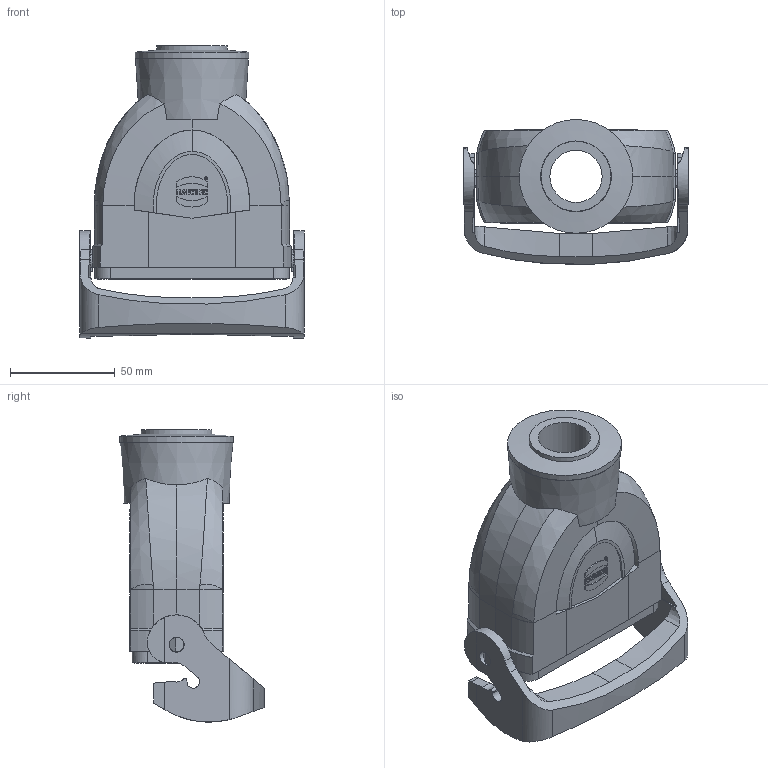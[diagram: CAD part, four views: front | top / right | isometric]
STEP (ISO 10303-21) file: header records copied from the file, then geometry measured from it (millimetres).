
FILE_DESCRIPTION(/* description */ (''),/* implementation_level */ '2;1');
FILE_NAME(/* name */ '100777076ugm000_d.stp',/* time_stamp */ '2022-07-06T14:22:24+02:00',/* author */ (''),/* organization */ (''),/* preprocessor_version */ 'ST-DEVELOPER v16.7',/* originating_system */ 'SIEMENS PLM Software NX 1911',/* authorisation */ '');
FILE_SCHEMA (('AUTOMOTIVE_DESIGN { 1 0 10303 214 3 1 1 1 }'));
Length unit declared in the file: millimetre
Products named in the file (1): 100777076ugm000_d
Bounding box: 107.5 x 69.15 x 139.83 mm (x, y, z)
Volume: 163064.2 mm3; surface area: 68535.2 mm2
Topology: 2 solids, 2 shells, 494 faces, 1333 edges, 868 vertices
Faces by surface type: plane 301, cylinder 114, bspline 49, cone 15, extrusion 11, torus 4
Full cylindrical faces by diameter (mm): 1.006 x1, 1.477 x1, 3.4 x4, 3.5 x4, 7.2 x2, 25 x1, 54.4 x1
Entity records: 21636 total; most frequent: CARTESIAN_POINT 6215, ORIENTED_EDGE 2608, DIRECTION 2244, EDGE_CURVE 1304, VERTEX_POINT 855, VECTOR 818, LINE 807, AXIS2_PLACEMENT_3D 713
